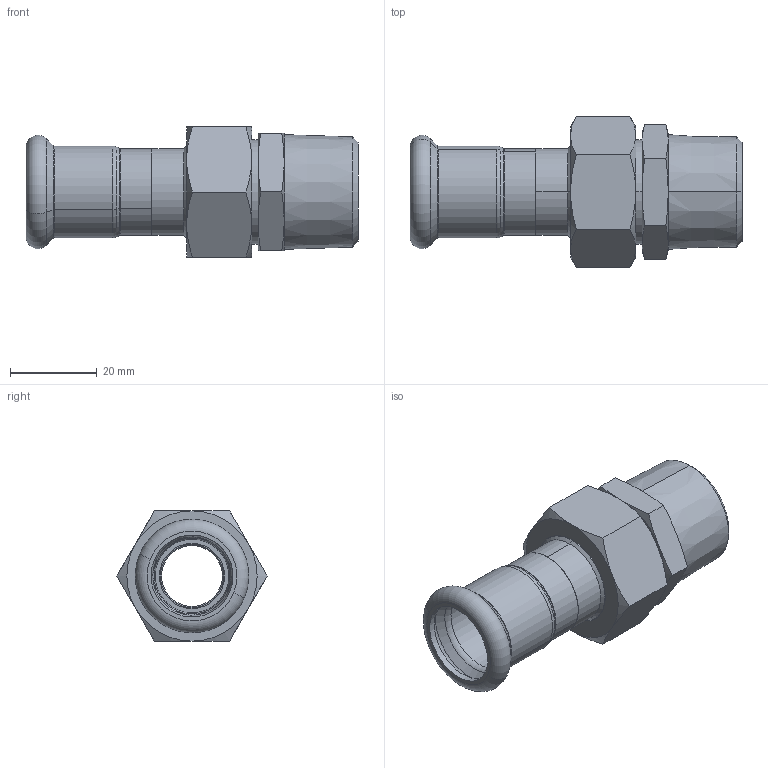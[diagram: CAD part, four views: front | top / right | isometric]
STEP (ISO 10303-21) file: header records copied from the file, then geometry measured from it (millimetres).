
FILE_DESCRIPTION (( 'STEP AP203' ), '1' );
FILE_NAME ('GDA5434.STEP', '2019-01-21T05:19:57', ( '' ), ( '' ), 'SwSTEP 2.0', 'SolidWorks 2015', '' );
FILE_SCHEMA (( 'CONFIG_CONTROL_DESIGN' ));
Length unit declared in the file: millimetre
Products named in the file (6): GDA5434; ZL-Ⅰ-01×?; 0.75; T-ｉ-01-18; 蛌遙諉芛0.75-0.75; 18｡ﾁ?
Assembly tree (5 placements, depth 2):
  GDA5434
    18｡ﾁ?
    0.75
    ZL-Ⅰ-01×?
    蛌遙諉芛0.75-0.75
    T-ｉ-01-18
Bounding box: 76.5 x 34.64 x 30 mm (x, y, z)
Volume: 19090.8 mm3; surface area: 15605.3 mm2
Topology: 5 solids, 5 shells, 125 faces, 258 edges, 148 vertices
Faces by surface type: cone 48, cylinder 34, plane 27, torus 16
Entity records: 4104 total; most frequent: CARTESIAN_POINT 811, DIRECTION 616, ORIENTED_EDGE 516, AXIS2_PLACEMENT_3D 273, EDGE_CURVE 258, VERTEX_POINT 148, EDGE_LOOP 140, CIRCLE 140
